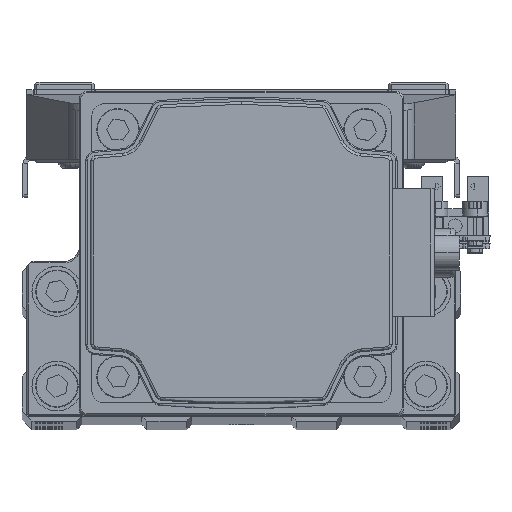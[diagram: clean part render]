
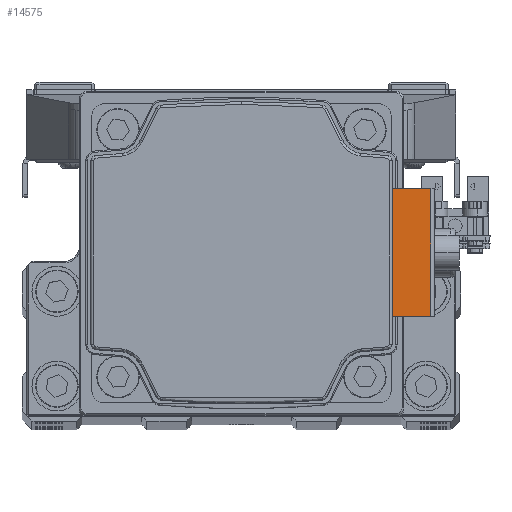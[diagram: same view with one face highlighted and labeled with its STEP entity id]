
A CAD part, top view. The second image highlights one B-rep face of the part: STEP entity #14575.
In plain terms, the highlighted planar face has unit normal (0, 0, 1) as drawn and (0, 0, -1) by its records, which use the part's own axes.
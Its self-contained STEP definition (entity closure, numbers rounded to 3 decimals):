
#534 = VECTOR ( 'NONE', #48297, 1000. ) ;
#945 = VERTEX_POINT ( 'NONE', #21473 ) ;
#1771 = CARTESIAN_POINT ( 'NONE',  ( 12.75, 33.991, -88.696 ) ) ;
#7399 = DIRECTION ( 'NONE',  ( 0., 1., 0. ) ) ;
#10576 = DIRECTION ( 'NONE',  ( 0., 0., -1. ) ) ;
#10876 = EDGE_LOOP ( 'NONE', ( #27703, #20064, #38677, #14227 ) ) ;
#10900 = EDGE_CURVE ( 'NONE', #11604, #945, #17610, .T. ) ;
#11268 = VECTOR ( 'NONE', #7399, 1000. ) ;
#11604 = VERTEX_POINT ( 'NONE', #38659 ) ;
#12352 = CARTESIAN_POINT ( 'NONE',  ( 12.75, 37.9, -88.696 ) ) ;
#12998 = LINE ( 'NONE', #28377, #26855 ) ;
#14227 = ORIENTED_EDGE ( 'NONE', *, *, #10900, .F. ) ;
#14371 = FACE_OUTER_BOUND ( 'NONE', #10876, .T. ) ;
#14575 = ADVANCED_FACE ( 'NONE', ( #14371 ), #29737, .T. ) ;
#17156 = DIRECTION ( 'NONE',  ( 0., 1., 0. ) ) ;
#17610 = LINE ( 'NONE', #32969, #534 ) ;
#17724 = EDGE_CURVE ( 'NONE', #25332, #44576, #12998, .T. ) ;
#20064 = ORIENTED_EDGE ( 'NONE', *, *, #17724, .T. ) ;
#21473 = CARTESIAN_POINT ( 'NONE',  ( 12.75, 30.2, -88.696 ) ) ;
#22433 = EDGE_CURVE ( 'NONE', #945, #44576, #36297, .T. ) ;
#25332 = VERTEX_POINT ( 'NONE', #42377 ) ;
#25952 = DIRECTION ( 'NONE',  ( -1., 0., 0. ) ) ;
#26566 = LINE ( 'NONE', #41909, #11268 ) ;
#26855 = VECTOR ( 'NONE', #43722, 1000. ) ;
#27703 = ORIENTED_EDGE ( 'NONE', *, *, #42119, .T. ) ;
#28377 = CARTESIAN_POINT ( 'NONE',  ( 0., 37.9, -88.696 ) ) ;
#29737 = PLANE ( 'NONE',  #42761 ) ;
#32969 = CARTESIAN_POINT ( 'NONE',  ( 18.438, 30.2, -88.696 ) ) ;
#36297 = LINE ( 'NONE', #1771, #38641 ) ;
#38641 = VECTOR ( 'NONE', #17156, 1000. ) ;
#38659 = CARTESIAN_POINT ( 'NONE',  ( -12.75, 30.2, -88.696 ) ) ;
#38677 = ORIENTED_EDGE ( 'NONE', *, *, #22433, .F. ) ;
#41909 = CARTESIAN_POINT ( 'NONE',  ( -12.75, 37.9, -88.696 ) ) ;
#42119 = EDGE_CURVE ( 'NONE', #11604, #25332, #26566, .T. ) ;
#42377 = CARTESIAN_POINT ( 'NONE',  ( -12.75, 37.9, -88.696 ) ) ;
#42761 = AXIS2_PLACEMENT_3D ( 'NONE', #45079, #10576, #25952 ) ;
#43722 = DIRECTION ( 'NONE',  ( 1., 0., 0. ) ) ;
#44576 = VERTEX_POINT ( 'NONE', #12352 ) ;
#45079 = CARTESIAN_POINT ( 'NONE',  ( 0., 37.9, -88.696 ) ) ;
#48297 = DIRECTION ( 'NONE',  ( 1., 0., 0. ) ) ;
